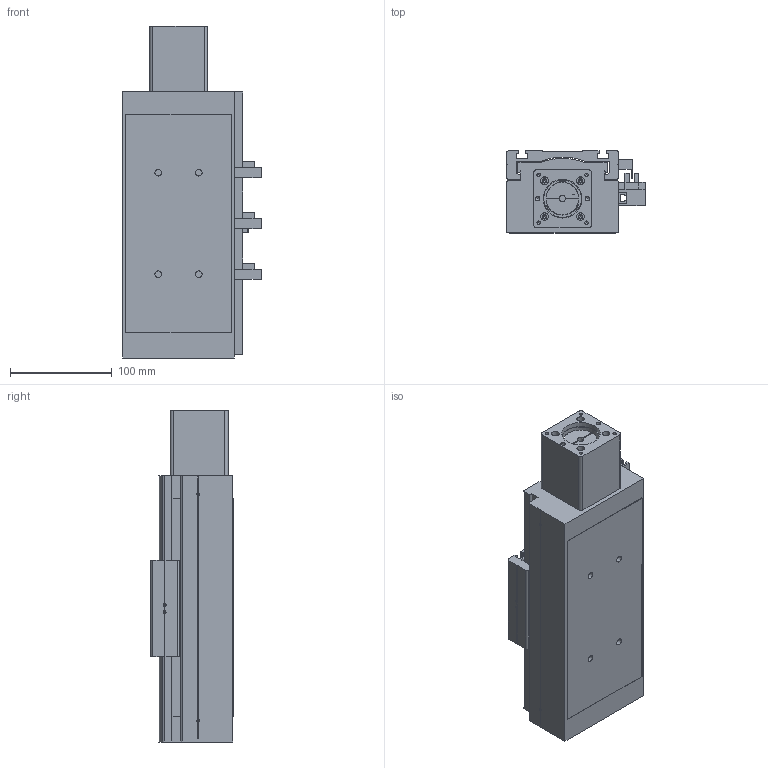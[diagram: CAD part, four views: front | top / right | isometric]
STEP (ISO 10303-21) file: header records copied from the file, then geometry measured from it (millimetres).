
FILE_DESCRIPTION((''),'2;1');
FILE_NAME('E:\libraries\UIA actuator library 2009\standard actuator\UIA110R12(15)DC\UIA110R12(15)DC-ball screw dia.16\UIA110R12(15)DC-_ _ _-R16_ _ step file 20Apr16\UIA110R12(15)DC-100-R16_ _-M23-P13-C10-S.stp','2016-04-20T16:37:48',('h029'),(''),'Autodesk Inventor 11','Autodesk Inventor 11','');
FILE_SCHEMA(('AUTOMOTIVE_DESIGN { 1 0 10303 214 1 1 1 1 }'));
Length unit declared in the file: millimetre
Products named in the file (10): UIA110R12(15)DC-100, ball screw dia.16; body, UIA110R12(15)DC-100,ball screw dia.16; Carriage, UIA110R12(15)DC; Sen Switch, UIA110R12(15)DC; sensor rail, UIA110R12(15)DC-100; SOH-32C; SOH-32C-3; SOH-32C-1; SOH-32C-2; M23 motor mount
Assembly tree (9 placements, depth 3):
  UIA110R12(15)DC-100, ball screw dia.16
    body, UIA110R12(15)DC-100,ball screw dia.16
    Carriage, UIA110R12(15)DC
    Sen Switch, UIA110R12(15)DC
    sensor rail, UIA110R12(15)DC-100
    SOH-32C
      SOH-32C-3
      SOH-32C-1
      SOH-32C-2
    M23 motor mount
Bounding box: 136.5 x 81 x 327 mm (x, y, z)
Volume: 2236896.6 mm3; surface area: 252464.4 mm2
Topology: 8 solids, 8 shells, 559 faces, 1542 edges, 1007 vertices
Faces by surface type: plane 361, cylinder 106, bspline 75, cone 17
Full cylindrical faces by diameter (mm): 2.459 x2, 3.242 x4, 4 x6, 4.5 x4, 5.5 x3, 6.35 x1, 6.5 x4, 7.5 x4, 8 x2, 9.5 x6, 10 x1, 10.5 x4, 21 x1, 32 x3, 37 x1, 38.1 x1, 42 x1, 42.01 x1, 43.5 x1
Entity records: 18356 total; most frequent: CARTESIAN_POINT 4705, DIRECTION 2715, ORIENTED_EDGE 2686, EDGE_CURVE 1343, VECTOR 943, LINE 943, VERTEX_POINT 938, AXIS2_PLACEMENT_3D 886
